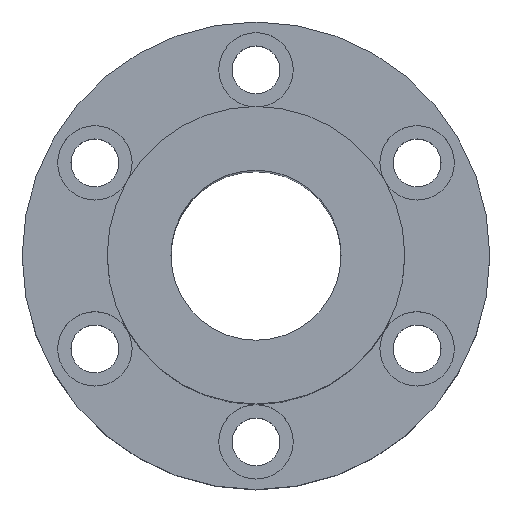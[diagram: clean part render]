
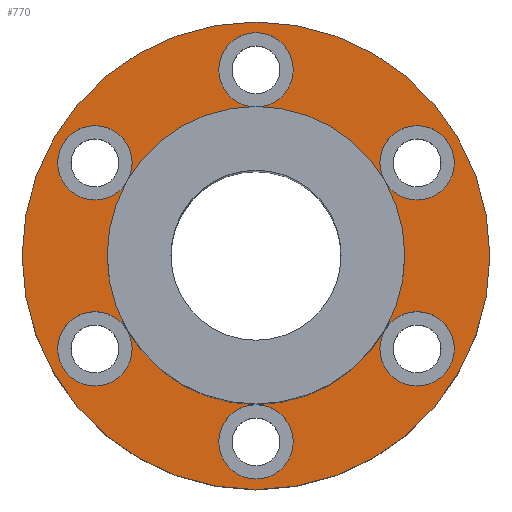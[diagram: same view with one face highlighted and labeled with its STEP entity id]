
A CAD part, top view. The second image highlights one B-rep face of the part: STEP entity #770.
In plain terms, the highlighted planar face has unit normal (0, 0, 1).
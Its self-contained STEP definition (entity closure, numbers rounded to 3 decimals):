
#1=CARTESIAN_POINT('',(0.,0.,17.5));
#2=DIRECTION('',(0.,0.,-1.));
#3=DIRECTION('',(-1.,0.,0.));
#4=AXIS2_PLACEMENT_3D('',#1,#2,#3);
#6=CARTESIAN_POINT('',(0.,0.,17.5));
#7=DIRECTION('',(0.,0.,-1.));
#8=DIRECTION('',(1.,0.,0.));
#9=AXIS2_PLACEMENT_3D('',#6,#7,#8);
#11=CARTESIAN_POINT('',(0.,0.,17.5));
#12=DIRECTION('',(0.,0.,1.));
#13=DIRECTION('',(1.,0.,0.));
#14=AXIS2_PLACEMENT_3D('',#11,#12,#13);
#16=CARTESIAN_POINT('',(30.311,17.5,17.5));
#17=DIRECTION('',(0.,0.,1.));
#18=DIRECTION('',(-0.866,-0.5,0.));
#19=AXIS2_PLACEMENT_3D('',#16,#17,#18);
#21=CARTESIAN_POINT('',(30.311,17.5,17.5));
#22=DIRECTION('',(0.,0.,1.));
#23=DIRECTION('',(0.5,-0.866,0.));
#24=AXIS2_PLACEMENT_3D('',#21,#22,#23);
#26=CARTESIAN_POINT('',(30.311,17.5,17.5));
#27=DIRECTION('',(0.,0.,1.));
#28=DIRECTION('',(-0.5,0.866,0.));
#29=AXIS2_PLACEMENT_3D('',#26,#27,#28);
#31=CARTESIAN_POINT('',(0.,0.,17.5));
#32=DIRECTION('',(0.,0.,1.));
#33=DIRECTION('',(0.866,0.5,0.));
#34=AXIS2_PLACEMENT_3D('',#31,#32,#33);
#36=CARTESIAN_POINT('',(0.,35.,17.5));
#37=DIRECTION('',(0.,0.,1.));
#38=DIRECTION('',(0.,-1.,0.));
#39=AXIS2_PLACEMENT_3D('',#36,#37,#38);
#41=CARTESIAN_POINT('',(0.,35.,17.5));
#42=DIRECTION('',(0.,0.,1.));
#43=DIRECTION('',(1.,0.,0.));
#44=AXIS2_PLACEMENT_3D('',#41,#42,#43);
#46=CARTESIAN_POINT('',(0.,35.,17.5));
#47=DIRECTION('',(0.,0.,1.));
#48=DIRECTION('',(-1.,0.,0.));
#49=AXIS2_PLACEMENT_3D('',#46,#47,#48);
#51=CARTESIAN_POINT('',(0.,0.,17.5));
#52=DIRECTION('',(0.,0.,1.));
#53=DIRECTION('',(0.,1.,0.));
#54=AXIS2_PLACEMENT_3D('',#51,#52,#53);
#56=CARTESIAN_POINT('',(-30.311,17.5,17.5));
#57=DIRECTION('',(0.,0.,1.));
#58=DIRECTION('',(0.866,-0.5,0.));
#59=AXIS2_PLACEMENT_3D('',#56,#57,#58);
#61=CARTESIAN_POINT('',(-30.311,17.5,17.5));
#62=DIRECTION('',(0.,0.,1.));
#63=DIRECTION('',(0.5,0.866,0.));
#64=AXIS2_PLACEMENT_3D('',#61,#62,#63);
#66=CARTESIAN_POINT('',(-30.311,17.5,17.5));
#67=DIRECTION('',(0.,0.,1.));
#68=DIRECTION('',(-0.5,-0.866,0.));
#69=AXIS2_PLACEMENT_3D('',#66,#67,#68);
#71=CARTESIAN_POINT('',(0.,0.,17.5));
#72=DIRECTION('',(0.,0.,1.));
#73=DIRECTION('',(-0.866,0.5,0.));
#74=AXIS2_PLACEMENT_3D('',#71,#72,#73);
#76=CARTESIAN_POINT('',(0.,0.,17.5));
#77=DIRECTION('',(0.,0.,1.));
#78=DIRECTION('',(-1.,0.,0.));
#79=AXIS2_PLACEMENT_3D('',#76,#77,#78);
#81=CARTESIAN_POINT('',(-30.311,-17.5,17.5));
#82=DIRECTION('',(0.,0.,1.));
#83=DIRECTION('',(0.866,0.5,0.));
#84=AXIS2_PLACEMENT_3D('',#81,#82,#83);
#86=CARTESIAN_POINT('',(-30.311,-17.5,17.5));
#87=DIRECTION('',(0.,0.,1.));
#88=DIRECTION('',(-0.5,0.866,0.));
#89=AXIS2_PLACEMENT_3D('',#86,#87,#88);
#91=CARTESIAN_POINT('',(-30.311,-17.5,17.5));
#92=DIRECTION('',(0.,0.,1.));
#93=DIRECTION('',(0.5,-0.866,0.));
#94=AXIS2_PLACEMENT_3D('',#91,#92,#93);
#96=CARTESIAN_POINT('',(0.,0.,17.5));
#97=DIRECTION('',(0.,0.,1.));
#98=DIRECTION('',(-0.866,-0.5,0.));
#99=AXIS2_PLACEMENT_3D('',#96,#97,#98);
#101=CARTESIAN_POINT('',(0.,-35.,17.5));
#102=DIRECTION('',(0.,0.,1.));
#103=DIRECTION('',(0.,1.,0.));
#104=AXIS2_PLACEMENT_3D('',#101,#102,#103);
#106=CARTESIAN_POINT('',(0.,-35.,17.5));
#107=DIRECTION('',(0.,0.,1.));
#108=DIRECTION('',(-1.,0.,0.));
#109=AXIS2_PLACEMENT_3D('',#106,#107,#108);
#111=CARTESIAN_POINT('',(0.,-35.,17.5));
#112=DIRECTION('',(0.,0.,1.));
#113=DIRECTION('',(1.,0.,0.));
#114=AXIS2_PLACEMENT_3D('',#111,#112,#113);
#116=CARTESIAN_POINT('',(0.,0.,17.5));
#117=DIRECTION('',(0.,0.,1.));
#118=DIRECTION('',(0.,-1.,0.));
#119=AXIS2_PLACEMENT_3D('',#116,#117,#118);
#121=CARTESIAN_POINT('',(30.311,-17.5,17.5));
#122=DIRECTION('',(0.,0.,1.));
#123=DIRECTION('',(-0.866,0.5,0.));
#124=AXIS2_PLACEMENT_3D('',#121,#122,#123);
#126=CARTESIAN_POINT('',(30.311,-17.5,17.5));
#127=DIRECTION('',(0.,0.,1.));
#128=DIRECTION('',(-0.5,-0.866,0.));
#129=AXIS2_PLACEMENT_3D('',#126,#127,#128);
#131=CARTESIAN_POINT('',(30.311,-17.5,17.5));
#132=DIRECTION('',(0.,0.,1.));
#133=DIRECTION('',(0.5,0.866,0.));
#134=AXIS2_PLACEMENT_3D('',#131,#132,#133);
#136=CARTESIAN_POINT('',(0.,0.,17.5));
#137=DIRECTION('',(0.,0.,1.));
#138=DIRECTION('',(0.866,-0.5,0.));
#139=AXIS2_PLACEMENT_3D('',#136,#137,#138);
#549=CARTESIAN_POINT('',(-44.,0.,17.5));
#550=CARTESIAN_POINT('',(44.,0.,17.5));
#551=VERTEX_POINT('',#549);
#552=VERTEX_POINT('',#550);
#553=CARTESIAN_POINT('',(28.,0.,17.5));
#554=CARTESIAN_POINT('',(24.249,14.,17.5));
#555=VERTEX_POINT('',#553);
#556=VERTEX_POINT('',#554);
#557=CARTESIAN_POINT('',(33.811,11.438,17.5));
#558=VERTEX_POINT('',#557);
#559=CARTESIAN_POINT('',(26.811,23.562,17.5));
#560=VERTEX_POINT('',#559);
#561=CARTESIAN_POINT('',(0.,28.,17.5));
#562=VERTEX_POINT('',#561);
#563=CARTESIAN_POINT('',(7.,35.,17.5));
#564=VERTEX_POINT('',#563);
#565=CARTESIAN_POINT('',(-7.,35.,17.5));
#566=VERTEX_POINT('',#565);
#567=CARTESIAN_POINT('',(-24.249,14.,17.5));
#568=VERTEX_POINT('',#567);
#569=CARTESIAN_POINT('',(-26.811,23.562,17.5));
#570=VERTEX_POINT('',#569);
#571=CARTESIAN_POINT('',(-33.811,11.438,17.5));
#572=VERTEX_POINT('',#571);
#573=CARTESIAN_POINT('',(-28.,0.,17.5));
#574=VERTEX_POINT('',#573);
#575=CARTESIAN_POINT('',(-24.249,-14.,17.5));
#576=VERTEX_POINT('',#575);
#577=CARTESIAN_POINT('',(-33.811,-11.438,17.5));
#578=VERTEX_POINT('',#577);
#579=CARTESIAN_POINT('',(-26.811,-23.562,17.5));
#580=VERTEX_POINT('',#579);
#581=CARTESIAN_POINT('',(0.,-28.,17.5));
#582=VERTEX_POINT('',#581);
#583=CARTESIAN_POINT('',(-7.,-35.,17.5));
#584=VERTEX_POINT('',#583);
#585=CARTESIAN_POINT('',(7.,-35.,17.5));
#586=VERTEX_POINT('',#585);
#587=CARTESIAN_POINT('',(24.249,-14.,17.5));
#588=VERTEX_POINT('',#587);
#589=CARTESIAN_POINT('',(26.811,-23.562,17.5));
#590=VERTEX_POINT('',#589);
#591=CARTESIAN_POINT('',(33.811,-11.438,17.5));
#592=VERTEX_POINT('',#591);
#705=CARTESIAN_POINT('',(0.,0.,17.5));
#706=DIRECTION('',(0.,0.,1.));
#707=DIRECTION('',(1.,0.,0.));
#708=AXIS2_PLACEMENT_3D('',#705,#706,#707);
#709=PLANE('',#708);
#711=ORIENTED_EDGE('',*,*,#710,.T.);
#713=ORIENTED_EDGE('',*,*,#712,.T.);
#714=EDGE_LOOP('',(#711,#713));
#715=FACE_OUTER_BOUND('',#714,.F.);
#717=ORIENTED_EDGE('',*,*,#716,.T.);
#719=ORIENTED_EDGE('',*,*,#718,.T.);
#721=ORIENTED_EDGE('',*,*,#720,.T.);
#723=ORIENTED_EDGE('',*,*,#722,.T.);
#725=ORIENTED_EDGE('',*,*,#724,.T.);
#727=ORIENTED_EDGE('',*,*,#726,.T.);
#729=ORIENTED_EDGE('',*,*,#728,.T.);
#731=ORIENTED_EDGE('',*,*,#730,.T.);
#733=ORIENTED_EDGE('',*,*,#732,.T.);
#735=ORIENTED_EDGE('',*,*,#734,.T.);
#737=ORIENTED_EDGE('',*,*,#736,.T.);
#739=ORIENTED_EDGE('',*,*,#738,.T.);
#741=ORIENTED_EDGE('',*,*,#740,.T.);
#743=ORIENTED_EDGE('',*,*,#742,.T.);
#745=ORIENTED_EDGE('',*,*,#744,.T.);
#747=ORIENTED_EDGE('',*,*,#746,.T.);
#749=ORIENTED_EDGE('',*,*,#748,.T.);
#751=ORIENTED_EDGE('',*,*,#750,.T.);
#753=ORIENTED_EDGE('',*,*,#752,.T.);
#755=ORIENTED_EDGE('',*,*,#754,.T.);
#757=ORIENTED_EDGE('',*,*,#756,.T.);
#759=ORIENTED_EDGE('',*,*,#758,.T.);
#761=ORIENTED_EDGE('',*,*,#760,.T.);
#763=ORIENTED_EDGE('',*,*,#762,.T.);
#765=ORIENTED_EDGE('',*,*,#764,.T.);
#767=ORIENTED_EDGE('',*,*,#766,.T.);
#768=EDGE_LOOP('',(#717,#719,#721,#723,#725,#727,#729,#731,#733,#735,#737,#739,
#741,#743,#745,#747,#749,#751,#753,#755,#757,#759,#761,#763,#765,#767));
#769=FACE_BOUND('',#768,.F.);
#770=ADVANCED_FACE('',(#715,#769),#709,.T.);
#5=CIRCLE('',#4,44.);
#10=CIRCLE('',#9,44.);
#15=CIRCLE('',#14,28.);
#20=CIRCLE('',#19,7.);
#25=CIRCLE('',#24,7.);
#30=CIRCLE('',#29,7.);
#35=CIRCLE('',#34,28.);
#40=CIRCLE('',#39,7.);
#45=CIRCLE('',#44,7.);
#50=CIRCLE('',#49,7.);
#55=CIRCLE('',#54,28.);
#60=CIRCLE('',#59,7.);
#65=CIRCLE('',#64,7.);
#70=CIRCLE('',#69,7.);
#75=CIRCLE('',#74,28.);
#80=CIRCLE('',#79,28.);
#85=CIRCLE('',#84,7.);
#90=CIRCLE('',#89,7.);
#95=CIRCLE('',#94,7.);
#100=CIRCLE('',#99,28.);
#105=CIRCLE('',#104,7.);
#110=CIRCLE('',#109,7.);
#115=CIRCLE('',#114,7.);
#120=CIRCLE('',#119,28.);
#125=CIRCLE('',#124,7.);
#130=CIRCLE('',#129,7.);
#135=CIRCLE('',#134,7.);
#140=CIRCLE('',#139,28.);
#710=EDGE_CURVE('',#551,#552,#5,.T.);
#712=EDGE_CURVE('',#552,#551,#10,.T.);
#716=EDGE_CURVE('',#555,#556,#15,.T.);
#718=EDGE_CURVE('',#556,#558,#20,.T.);
#720=EDGE_CURVE('',#558,#560,#25,.T.);
#722=EDGE_CURVE('',#560,#556,#30,.T.);
#724=EDGE_CURVE('',#556,#562,#35,.T.);
#726=EDGE_CURVE('',#562,#564,#40,.T.);
#728=EDGE_CURVE('',#564,#566,#45,.T.);
#730=EDGE_CURVE('',#566,#562,#50,.T.);
#732=EDGE_CURVE('',#562,#568,#55,.T.);
#734=EDGE_CURVE('',#568,#570,#60,.T.);
#736=EDGE_CURVE('',#570,#572,#65,.T.);
#738=EDGE_CURVE('',#572,#568,#70,.T.);
#740=EDGE_CURVE('',#568,#574,#75,.T.);
#742=EDGE_CURVE('',#574,#576,#80,.T.);
#744=EDGE_CURVE('',#576,#578,#85,.T.);
#746=EDGE_CURVE('',#578,#580,#90,.T.);
#748=EDGE_CURVE('',#580,#576,#95,.T.);
#750=EDGE_CURVE('',#576,#582,#100,.T.);
#752=EDGE_CURVE('',#582,#584,#105,.T.);
#754=EDGE_CURVE('',#584,#586,#110,.T.);
#756=EDGE_CURVE('',#586,#582,#115,.T.);
#758=EDGE_CURVE('',#582,#588,#120,.T.);
#760=EDGE_CURVE('',#588,#590,#125,.T.);
#762=EDGE_CURVE('',#590,#592,#130,.T.);
#764=EDGE_CURVE('',#592,#588,#135,.T.);
#766=EDGE_CURVE('',#588,#555,#140,.T.);
